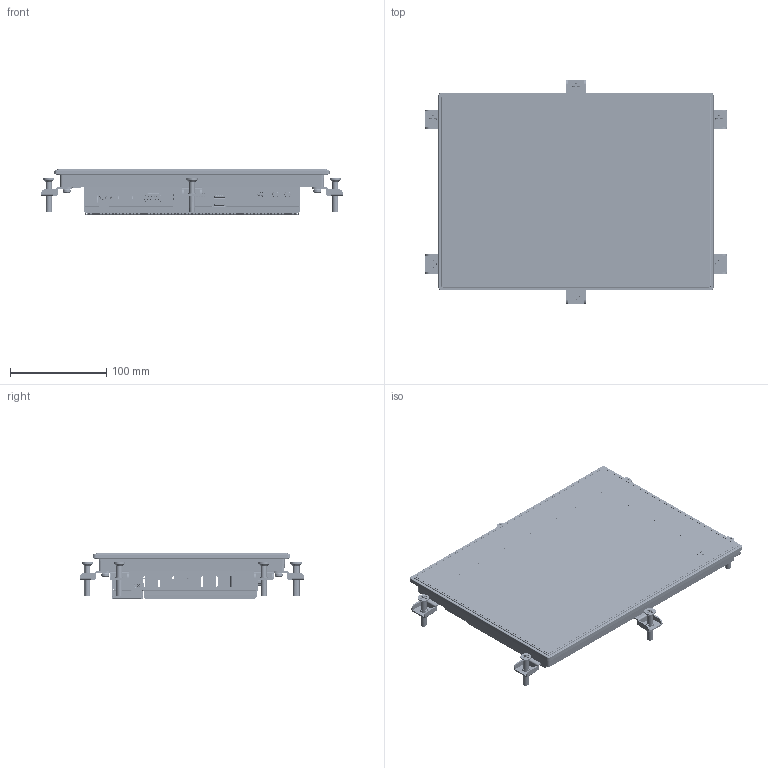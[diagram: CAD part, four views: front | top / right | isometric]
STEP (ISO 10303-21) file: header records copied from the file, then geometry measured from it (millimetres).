
FILE_DESCRIPTION((''),'2;1');
FILE_NAME('APL4C-101','2026-06-09T16:14:23',('gijyu181'),(''),'CREO PARAMETRIC BY PTC INC, 2018050','CREO PARAMETRIC BY PTC INC, 2018050','');
FILE_SCHEMA(('CONFIG_CONTROL_DESIGN','SHAPE_APPEARANCE_LAYERS_GROUPS'));
Products named in the file (1): APL4C-101
Bounding box: 313 x 233.01 x 47.55 mm (x, y, z)
Volume: 767211.7 mm3; surface area: 684684.4 mm2
Topology: 52 solids, 114 shells, 22475 faces, 65779 edges, 43361 vertices
Faces by surface type: plane 15647, cylinder 4653, extrusion 1187, cone 374, bspline 282, torus 225, sphere 95, revolution 12
Entity records: 866499 total; most frequent: CARTESIAN_POINT 164993, ORIENTED_EDGE 131266, DIRECTION 116096, EDGE_CURVE 65707, VECTOR 52520, LINE 51333, VERTEX_POINT 43359, AXIS2_PLACEMENT_3D 31782
